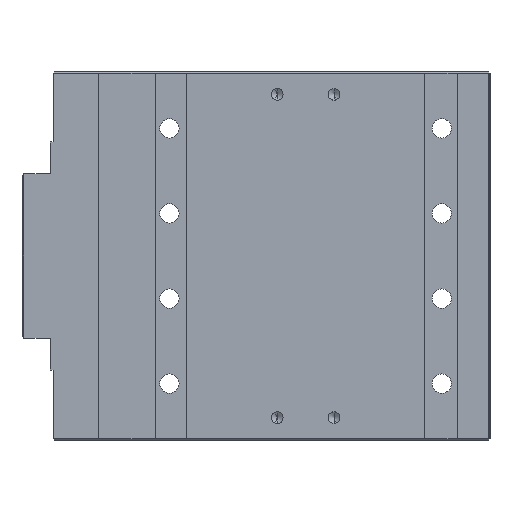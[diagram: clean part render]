
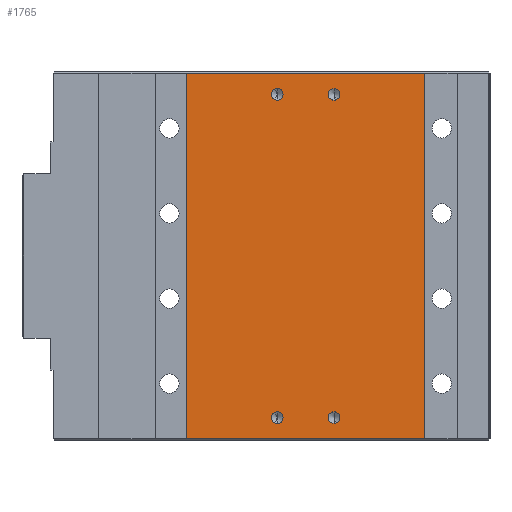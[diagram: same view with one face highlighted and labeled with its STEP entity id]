
A CAD part, front view. The second image highlights one B-rep face of the part: STEP entity #1765.
In plain terms, the highlighted planar face has unit normal (0, -1, 0).
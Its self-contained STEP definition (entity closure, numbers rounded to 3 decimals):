
#6 = DIRECTION ( 'NONE',  ( 0., -1., 0. ) ) ;
#21 = DIRECTION ( 'NONE',  ( 0., -1., 0. ) ) ;
#95 = CIRCLE ( 'NONE', #2782, 1.025 ) ;
#96 = DIRECTION ( 'NONE',  ( 0., 0., -1. ) ) ;
#238 = VERTEX_POINT ( 'NONE', #1122 ) ;
#244 = VERTEX_POINT ( 'NONE', #3000 ) ;
#299 = EDGE_CURVE ( 'NONE', #1136, #2794, #3099, .T. ) ;
#338 = ORIENTED_EDGE ( 'NONE', *, *, #3686, .F. ) ;
#372 = CIRCLE ( 'NONE', #2887, 1.025 ) ;
#398 = ORIENTED_EDGE ( 'NONE', *, *, #299, .F. ) ;
#456 = CARTESIAN_POINT ( 'NONE',  ( 21., -10., 32.2 ) ) ;
#544 = CIRCLE ( 'NONE', #3391, 1.025 ) ;
#564 = CARTESIAN_POINT ( 'NONE',  ( -21., -10., 32.2 ) ) ;
#586 = AXIS2_PLACEMENT_3D ( 'NONE', #4346, #1601, #819 ) ;
#685 = FACE_OUTER_BOUND ( 'NONE', #3532, .T. ) ;
#773 = EDGE_LOOP ( 'NONE', ( #4862, #826 ) ) ;
#779 = CARTESIAN_POINT ( 'NONE',  ( 5., -10., 29.525 ) ) ;
#819 = DIRECTION ( 'NONE',  ( 0., 0., -1. ) ) ;
#826 = ORIENTED_EDGE ( 'NONE', *, *, #4022, .F. ) ;
#843 = DIRECTION ( 'NONE',  ( 0., -1., 0. ) ) ;
#900 = EDGE_CURVE ( 'NONE', #4773, #4786, #95, .T. ) ;
#1122 = CARTESIAN_POINT ( 'NONE',  ( 5., -10., 27.475 ) ) ;
#1136 = VERTEX_POINT ( 'NONE', #2736 ) ;
#1171 = VERTEX_POINT ( 'NONE', #779 ) ;
#1190 = AXIS2_PLACEMENT_3D ( 'NONE', #2770, #843, #96 ) ;
#1216 = ORIENTED_EDGE ( 'NONE', *, *, #4141, .T. ) ;
#1227 = ORIENTED_EDGE ( 'NONE', *, *, #4094, .F. ) ;
#1230 = DIRECTION ( 'NONE',  ( 1., 0., 0. ) ) ;
#1308 = DIRECTION ( 'NONE',  ( 0., -1., 0. ) ) ;
#1336 = EDGE_CURVE ( 'NONE', #4670, #3830, #3252, .T. ) ;
#1375 = EDGE_LOOP ( 'NONE', ( #398, #4697 ) ) ;
#1495 = EDGE_LOOP ( 'NONE', ( #4835, #3597 ) ) ;
#1574 = CARTESIAN_POINT ( 'NONE',  ( 5., -10., 28.5 ) ) ;
#1601 = DIRECTION ( 'NONE',  ( 0., -1., 0. ) ) ;
#1705 = FACE_BOUND ( 'NONE', #773, .T. ) ;
#1762 = CIRCLE ( 'NONE', #4952, 1.025 ) ;
#1765 = ADVANCED_FACE ( 'NONE', ( #4472, #1705, #2641, #4165, #685 ), #3828, .F. ) ;
#1848 = DIRECTION ( 'NONE',  ( 0., -1., 0. ) ) ;
#1858 = LINE ( 'NONE', #4980, #2009 ) ;
#1871 = DIRECTION ( 'NONE',  ( 0., 0., -1. ) ) ;
#2001 = AXIS2_PLACEMENT_3D ( 'NONE', #2198, #1848, #1871 ) ;
#2009 = VECTOR ( 'NONE', #3417, 1000. ) ;
#2025 = DIRECTION ( 'NONE',  ( 0., 0., -1. ) ) ;
#2150 = DIRECTION ( 'NONE',  ( 0., 1., 0. ) ) ;
#2158 = CARTESIAN_POINT ( 'NONE',  ( 5., -10., -27.475 ) ) ;
#2198 = CARTESIAN_POINT ( 'NONE',  ( 5., -10., -28.5 ) ) ;
#2266 = DIRECTION ( 'NONE',  ( 0., -1., 0. ) ) ;
#2328 = CARTESIAN_POINT ( 'NONE',  ( 5., -10., 28.5 ) ) ;
#2371 = CARTESIAN_POINT ( 'NONE',  ( -5., -10., -27.475 ) ) ;
#2384 = AXIS2_PLACEMENT_3D ( 'NONE', #3776, #2150, #3439 ) ;
#2491 = CIRCLE ( 'NONE', #1190, 1.025 ) ;
#2505 = EDGE_CURVE ( 'NONE', #2794, #1136, #4122, .T. ) ;
#2567 = CARTESIAN_POINT ( 'NONE',  ( -5., -10., -28.5 ) ) ;
#2568 = CARTESIAN_POINT ( 'NONE',  ( -5., -10., 29.525 ) ) ;
#2641 = FACE_BOUND ( 'NONE', #1495, .T. ) ;
#2736 = CARTESIAN_POINT ( 'NONE',  ( -5., -10., 27.475 ) ) ;
#2749 = CARTESIAN_POINT ( 'NONE',  ( -21., -10., 32.2 ) ) ;
#2770 = CARTESIAN_POINT ( 'NONE',  ( -5., -10., -28.5 ) ) ;
#2777 = CARTESIAN_POINT ( 'NONE',  ( -21., -10., -32.2 ) ) ;
#2782 = AXIS2_PLACEMENT_3D ( 'NONE', #4818, #1308, #2025 ) ;
#2794 = VERTEX_POINT ( 'NONE', #2568 ) ;
#2796 = CARTESIAN_POINT ( 'NONE',  ( -21., -10., 32.5 ) ) ;
#2882 = AXIS2_PLACEMENT_3D ( 'NONE', #4660, #6, #3138 ) ;
#2887 = AXIS2_PLACEMENT_3D ( 'NONE', #1574, #21, #3522 ) ;
#2934 = EDGE_LOOP ( 'NONE', ( #3458, #338 ) ) ;
#2972 = EDGE_CURVE ( 'NONE', #1171, #238, #372, .T. ) ;
#3000 = CARTESIAN_POINT ( 'NONE',  ( -5., -10., -29.525 ) ) ;
#3063 = CIRCLE ( 'NONE', #2001, 1.025 ) ;
#3066 = DIRECTION ( 'NONE',  ( 0., -1., 0. ) ) ;
#3099 = CIRCLE ( 'NONE', #586, 1.025 ) ;
#3138 = DIRECTION ( 'NONE',  ( 0., 0., -1. ) ) ;
#3156 = LINE ( 'NONE', #2796, #3321 ) ;
#3172 = CARTESIAN_POINT ( 'NONE',  ( 21., -10., -32.2 ) ) ;
#3252 = LINE ( 'NONE', #3172, #4673 ) ;
#3269 = EDGE_CURVE ( 'NONE', #238, #1171, #544, .T. ) ;
#3321 = VECTOR ( 'NONE', #4373, 1000. ) ;
#3363 = VERTEX_POINT ( 'NONE', #456 ) ;
#3391 = AXIS2_PLACEMENT_3D ( 'NONE', #2328, #3066, #3508 ) ;
#3417 = DIRECTION ( 'NONE',  ( 0., 0., -1. ) ) ;
#3439 = DIRECTION ( 'NONE',  ( 0., 0., 1. ) ) ;
#3443 = DIRECTION ( 'NONE',  ( 0., 0., -1. ) ) ;
#3455 = EDGE_CURVE ( 'NONE', #244, #4647, #2491, .T. ) ;
#3458 = ORIENTED_EDGE ( 'NONE', *, *, #900, .F. ) ;
#3508 = DIRECTION ( 'NONE',  ( 0., 0., -1. ) ) ;
#3522 = DIRECTION ( 'NONE',  ( 0., 0., -1. ) ) ;
#3532 = EDGE_LOOP ( 'NONE', ( #1227, #4420, #1216, #4078 ) ) ;
#3597 = ORIENTED_EDGE ( 'NONE', *, *, #2972, .F. ) ;
#3686 = EDGE_CURVE ( 'NONE', #4786, #4773, #3063, .T. ) ;
#3776 = CARTESIAN_POINT ( 'NONE',  ( -21., -10., 32.5 ) ) ;
#3828 = PLANE ( 'NONE',  #2384 ) ;
#3830 = VERTEX_POINT ( 'NONE', #4416 ) ;
#3974 = VECTOR ( 'NONE', #4751, 1000. ) ;
#4022 = EDGE_CURVE ( 'NONE', #4647, #244, #1762, .T. ) ;
#4078 = ORIENTED_EDGE ( 'NONE', *, *, #1336, .T. ) ;
#4094 = EDGE_CURVE ( 'NONE', #3363, #3830, #1858, .T. ) ;
#4122 = CIRCLE ( 'NONE', #2882, 1.025 ) ;
#4125 = EDGE_CURVE ( 'NONE', #3363, #5046, #4266, .T. ) ;
#4141 = EDGE_CURVE ( 'NONE', #5046, #4670, #3156, .T. ) ;
#4165 = FACE_BOUND ( 'NONE', #2934, .T. ) ;
#4266 = LINE ( 'NONE', #2749, #3974 ) ;
#4346 = CARTESIAN_POINT ( 'NONE',  ( -5., -10., 28.5 ) ) ;
#4373 = DIRECTION ( 'NONE',  ( 0., 0., -1. ) ) ;
#4416 = CARTESIAN_POINT ( 'NONE',  ( 21., -10., -32.2 ) ) ;
#4420 = ORIENTED_EDGE ( 'NONE', *, *, #4125, .T. ) ;
#4472 = FACE_BOUND ( 'NONE', #1375, .T. ) ;
#4500 = CARTESIAN_POINT ( 'NONE',  ( 5., -10., -29.525 ) ) ;
#4647 = VERTEX_POINT ( 'NONE', #2371 ) ;
#4660 = CARTESIAN_POINT ( 'NONE',  ( -5., -10., 28.5 ) ) ;
#4670 = VERTEX_POINT ( 'NONE', #2777 ) ;
#4673 = VECTOR ( 'NONE', #1230, 1000. ) ;
#4697 = ORIENTED_EDGE ( 'NONE', *, *, #2505, .F. ) ;
#4751 = DIRECTION ( 'NONE',  ( -1., 0., 0. ) ) ;
#4773 = VERTEX_POINT ( 'NONE', #4500 ) ;
#4786 = VERTEX_POINT ( 'NONE', #2158 ) ;
#4818 = CARTESIAN_POINT ( 'NONE',  ( 5., -10., -28.5 ) ) ;
#4835 = ORIENTED_EDGE ( 'NONE', *, *, #3269, .F. ) ;
#4862 = ORIENTED_EDGE ( 'NONE', *, *, #3455, .F. ) ;
#4952 = AXIS2_PLACEMENT_3D ( 'NONE', #2567, #2266, #3443 ) ;
#4980 = CARTESIAN_POINT ( 'NONE',  ( 21., -10., 32.5 ) ) ;
#5046 = VERTEX_POINT ( 'NONE', #564 ) ;
